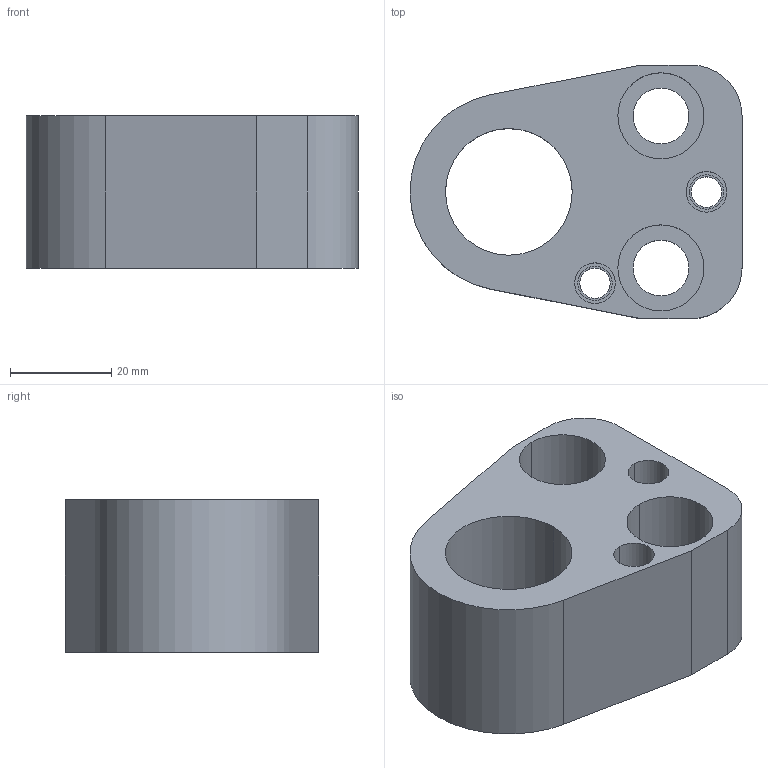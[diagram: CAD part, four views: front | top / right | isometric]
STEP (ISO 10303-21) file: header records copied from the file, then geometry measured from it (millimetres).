
FILE_DESCRIPTION(/* description */ (''),/* implementation_level */ '2;1');
FILE_NAME(/* name */ '3d_dp-an25_03693_r00.stp',/* time_stamp */ '2011-01-10T14:15:58+09:00',/* author */ ('MISUMI'),/* organization */ (''),/* preprocessor_version */ 'ST-DEVELOPER v11',/* originating_system */ 'UGS - NX 5.0',/* authorisation */ '');
FILE_SCHEMA (('CONFIG_CONTROL_DESIGN'));
Length unit declared in the file: millimetre
Products named in the file (1): 3d_dp-an25_03693_r00
Bounding box: 65.5 x 50 x 30 mm (x, y, z)
Volume: 54885.5 mm3; surface area: 16101.4 mm2
Topology: 1 solids, 1 shells, 43 faces, 100 edges, 66 vertices
Faces by surface type: cylinder 27, plane 14, cone 2
Entity records: 1360 total; most frequent: DIRECTION 244, CARTESIAN_POINT 210, ORIENTED_EDGE 200, EDGE_CURVE 100, AXIS2_PLACEMENT_3D 100, VERTEX_POINT 66, EDGE_LOOP 60, CIRCLE 56
